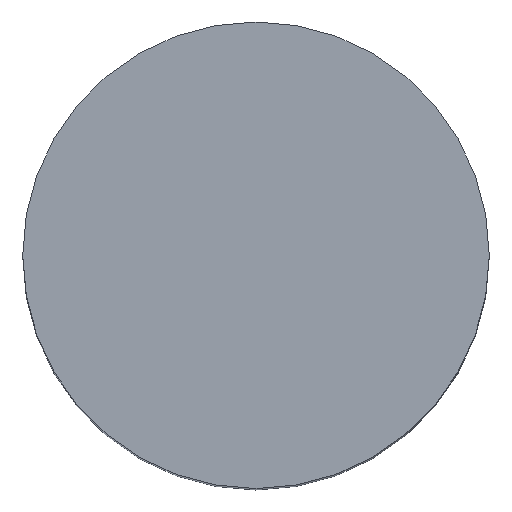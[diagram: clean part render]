
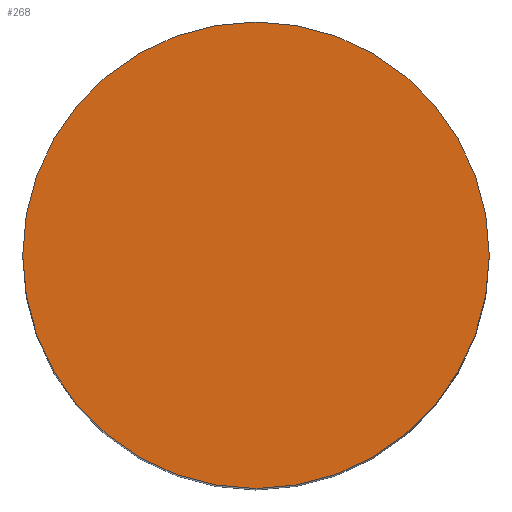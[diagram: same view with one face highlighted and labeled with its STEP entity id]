
A CAD part, top view. The second image highlights one B-rep face of the part: STEP entity #268.
In plain terms, the highlighted planar face has unit normal (0, 0, 1).
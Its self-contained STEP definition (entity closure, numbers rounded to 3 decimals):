
#51 = VERTEX_POINT('',#52);
#52 = CARTESIAN_POINT('',(-17.5,11.25,63.));
#59 = PLANE('',#60);
#60 = AXIS2_PLACEMENT_3D('',#61,#62,#63);
#61 = CARTESIAN_POINT('',(-17.5,11.25,0.));
#62 = DIRECTION('',(1.,0.,-0.));
#63 = DIRECTION('',(0.,-1.,0.));
#78 = EDGE_CURVE('',#51,#51,#79,.T.);
#79 = SURFACE_CURVE('',#80,(#84,#91),.PCURVE_S1.);
#80 = LINE('',#81,#82);
#81 = CARTESIAN_POINT('',(-17.5,11.25,63.));
#82 = VECTOR('',#83,1.);
#83 = DIRECTION('',(0.,-1.,0.));
#84 = PCURVE('',#59,#85);
#85 = DEFINITIONAL_REPRESENTATION('',(#86),#90);
#86 = LINE('',#87,#88);
#87 = CARTESIAN_POINT('',(0.,-63.));
#88 = VECTOR('',#89,1.);
#89 = DIRECTION('',(1.,0.));
#90 = ( GEOMETRIC_REPRESENTATION_CONTEXT(2) 
PARAMETRIC_REPRESENTATION_CONTEXT() REPRESENTATION_CONTEXT('2D SPACE',''
  ) );
#91 = PCURVE('',#92,#97);
#92 = PLANE('',#93);
#93 = AXIS2_PLACEMENT_3D('',#94,#95,#96);
#94 = CARTESIAN_POINT('',(0.,11.25,63.));
#95 = DIRECTION('',(0.,0.,1.));
#96 = DIRECTION('',(0.,1.,0.));
#97 = DEFINITIONAL_REPRESENTATION('',(#98),#102);
#98 = LINE('',#99,#100);
#99 = CARTESIAN_POINT('',(0.,17.5));
#100 = VECTOR('',#101,1.);
#101 = DIRECTION('',(-1.,0.));
#102 = ( GEOMETRIC_REPRESENTATION_CONTEXT(2) 
PARAMETRIC_REPRESENTATION_CONTEXT() REPRESENTATION_CONTEXT('2D SPACE',''
  ) );
#135 = EDGE_CURVE('',#51,#136,#138,.T.);
#136 = VERTEX_POINT('',#137);
#137 = CARTESIAN_POINT('',(17.5,11.25,63.));
#138 = SURFACE_CURVE('',#139,(#144,#156),.PCURVE_S1.);
#139 = CIRCLE('',#140,17.5);
#140 = AXIS2_PLACEMENT_3D('',#141,#142,#143);
#141 = CARTESIAN_POINT('',(0.,11.25,63.));
#142 = DIRECTION('',(0.,0.,1.));
#143 = DIRECTION('',(1.,0.,0.));
#144 = PCURVE('',#145,#150);
#145 = CYLINDRICAL_SURFACE('',#146,17.5);
#146 = AXIS2_PLACEMENT_3D('',#147,#148,#149);
#147 = CARTESIAN_POINT('',(0.,11.25,0.));
#148 = DIRECTION('',(-0.,-0.,-1.));
#149 = DIRECTION('',(1.,0.,0.));
#150 = DEFINITIONAL_REPRESENTATION('',(#151),#155);
#151 = LINE('',#152,#153);
#152 = CARTESIAN_POINT('',(-0.,-63.));
#153 = VECTOR('',#154,1.);
#154 = DIRECTION('',(-1.,0.));
#155 = ( GEOMETRIC_REPRESENTATION_CONTEXT(2) 
PARAMETRIC_REPRESENTATION_CONTEXT() REPRESENTATION_CONTEXT('2D SPACE',''
  ) );
#156 = PCURVE('',#92,#157);
#157 = DEFINITIONAL_REPRESENTATION('',(#158),#162);
#158 = CIRCLE('',#159,17.5);
#159 = AXIS2_PLACEMENT_2D('',#160,#161);
#160 = CARTESIAN_POINT('',(0.,0.));
#161 = DIRECTION('',(0.,-1.));
#162 = ( GEOMETRIC_REPRESENTATION_CONTEXT(2) 
PARAMETRIC_REPRESENTATION_CONTEXT() REPRESENTATION_CONTEXT('2D SPACE',''
  ) );
#180 = CYLINDRICAL_SURFACE('',#181,17.5);
#181 = AXIS2_PLACEMENT_3D('',#182,#183,#184);
#182 = CARTESIAN_POINT('',(0.,11.25,0.));
#183 = DIRECTION('',(-0.,-0.,-1.));
#184 = DIRECTION('',(1.,0.,0.));
#218 = EDGE_CURVE('',#136,#51,#219,.T.);
#219 = SURFACE_CURVE('',#220,(#225,#232),.PCURVE_S1.);
#220 = CIRCLE('',#221,17.5);
#221 = AXIS2_PLACEMENT_3D('',#222,#223,#224);
#222 = CARTESIAN_POINT('',(0.,11.25,63.));
#223 = DIRECTION('',(0.,0.,1.));
#224 = DIRECTION('',(1.,0.,0.));
#225 = PCURVE('',#180,#226);
#226 = DEFINITIONAL_REPRESENTATION('',(#227),#231);
#227 = LINE('',#228,#229);
#228 = CARTESIAN_POINT('',(-0.,-63.));
#229 = VECTOR('',#230,1.);
#230 = DIRECTION('',(-1.,0.));
#231 = ( GEOMETRIC_REPRESENTATION_CONTEXT(2) 
PARAMETRIC_REPRESENTATION_CONTEXT() REPRESENTATION_CONTEXT('2D SPACE',''
  ) );
#232 = PCURVE('',#92,#233);
#233 = DEFINITIONAL_REPRESENTATION('',(#234),#238);
#234 = CIRCLE('',#235,17.5);
#235 = AXIS2_PLACEMENT_2D('',#236,#237);
#236 = CARTESIAN_POINT('',(0.,0.));
#237 = DIRECTION('',(0.,-1.));
#238 = ( GEOMETRIC_REPRESENTATION_CONTEXT(2) 
PARAMETRIC_REPRESENTATION_CONTEXT() REPRESENTATION_CONTEXT('2D SPACE',''
  ) );
#268 = ADVANCED_FACE('',(#269),#92,.T.);
#269 = FACE_BOUND('',#270,.T.);
#270 = EDGE_LOOP('',(#271,#272,#273));
#271 = ORIENTED_EDGE('',*,*,#78,.T.);
#272 = ORIENTED_EDGE('',*,*,#135,.T.);
#273 = ORIENTED_EDGE('',*,*,#218,.T.);
